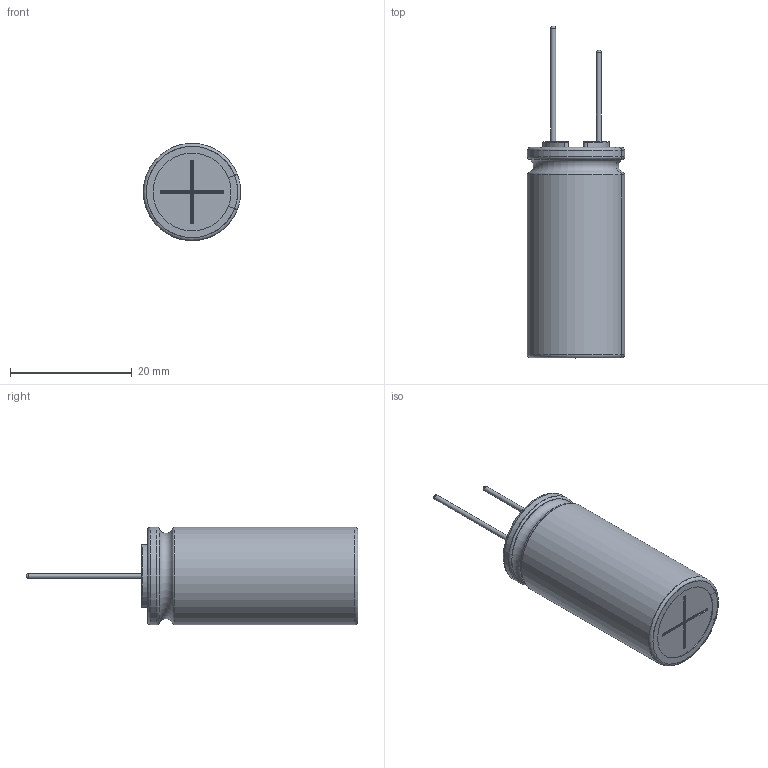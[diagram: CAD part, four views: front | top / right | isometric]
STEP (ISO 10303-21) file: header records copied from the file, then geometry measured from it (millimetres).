
FILE_DESCRIPTION(/* description */ (''),/* implementation_level */ '2;1');
FILE_NAME(/* name */ '16x35.5_Lead.stp',/* time_stamp */ '2017-09-05T14:47:14+09:00',/* author */ (''),/* organization */ (''),/* preprocessor_version */ 'ST-DEVELOPER v16',/* originating_system */ 'SIEMENS PLM Software NX 11.0',/* authorisation */ '');
FILE_SCHEMA (('AUTOMOTIVE_DESIGN { 1 0 10303 214 3 1 1 1 }'));
Length unit declared in the file: millimetre
Products named in the file (1): 16x35.5_Lead_0
Bounding box: 15.98 x 54.5 x 16 mm (x, y, z)
Volume: 6899.9 mm3; surface area: 6018.9 mm2
Topology: 3 solids, 3 shells, 132 faces, 328 edges, 205 vertices
Faces by surface type: cylinder 50, torus 35, plane 33, sphere 6, bspline 6, extrusion 2
Full cylindrical faces by diameter (mm): 0.8 x2, 15.8 x2
Entity records: 5217 total; most frequent: CARTESIAN_POINT 1367, DIRECTION 748, ORIENTED_EDGE 624, EDGE_CURVE 312, AXIS2_PLACEMENT_3D 311, VERTEX_POINT 200, CIRCLE 174, EDGE_LOOP 146
